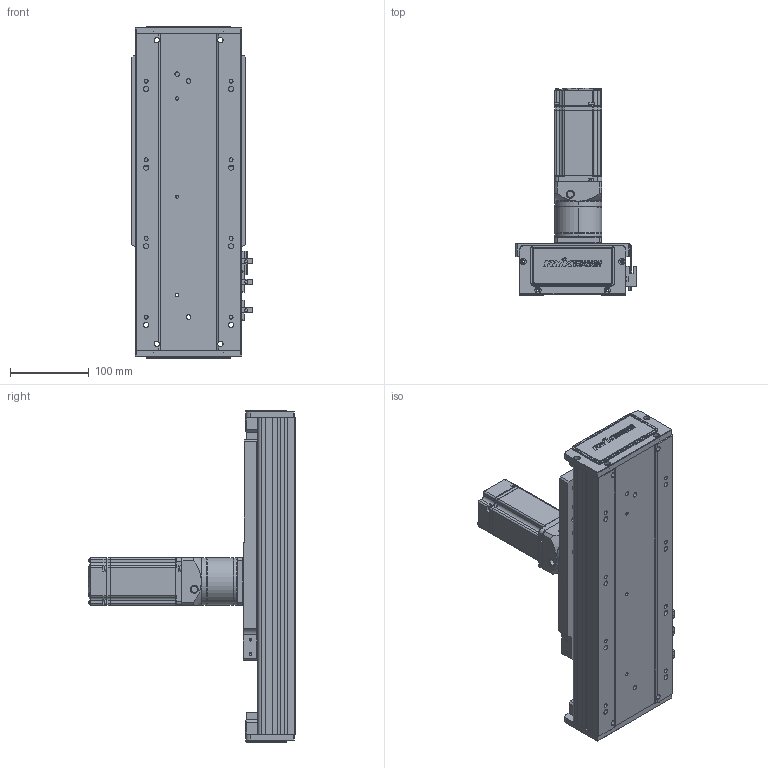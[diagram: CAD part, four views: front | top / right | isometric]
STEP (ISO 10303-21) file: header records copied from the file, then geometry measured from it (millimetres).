
FILE_DESCRIPTION (( 'STEP AP203' ), '1' );
FILE_NAME ('RY140-C-250-UK.SLDASM_50.step', '2022-03-12T01:57:55', ( '' ), ( '' ), 'SwSTEP 2.0', 'SolidWorks 2016', '' );
FILE_SCHEMA (( 'CONFIG_CONTROL_DESIGN' ));
Length unit declared in the file: millimetre
Products named in the file (12): RY140-300齿条模组型材底座_50; RY120外置感应片(140共用）; RY140-C-250-UK.SLDASM_50; RY140-絳寢EGH15-300-MK_50; RY140-喘沭賑輸; 覜茼ん672; 60ZDF珨撰俋倛芞T1 200W M4; RY140-喘謫萇儂覃誹啣; RY140-喘沭裔啣; 140蚥薯蝶輸; 15; 絳寢賑輸EGH15
Assembly tree (21 placements, depth 2):
  RY140-C-250-UK.SLDASM_50
    RY140-300齿条模组型材底座_50
    RY140-絳寢EGH15-300-MK_50  x2
    絳寢賑輸EGH15  x6
    RY140-喘沭裔啣  x2
    覜茼ん672  x3
    RY140-喘沭賑輸
    RY120外置感应片(140共用）
    RY140-喘謫萇儂覃誹啣
    140蚥薯蝶輸  x2
    60ZDF珨撰俋倛芞T1 200W M4
    15
Bounding box: 153.7 x 263.5 x 422 mm (x, y, z)
Volume: 2741336.2 mm3; surface area: 625877.3 mm2
Topology: 21 solids, 21 shells, 2908 faces, 7588 edges, 4932 vertices
Faces by surface type: plane 1596, cylinder 1090, cone 176, bspline 46
Entity records: 60759 total; most frequent: CARTESIAN_POINT 12431, DIRECTION 9843, ORIENTED_EDGE 9638, EDGE_CURVE 4819, AXIS2_PLACEMENT_3D 3405, VERTEX_POINT 3149, LINE 3033, VECTOR 3033
